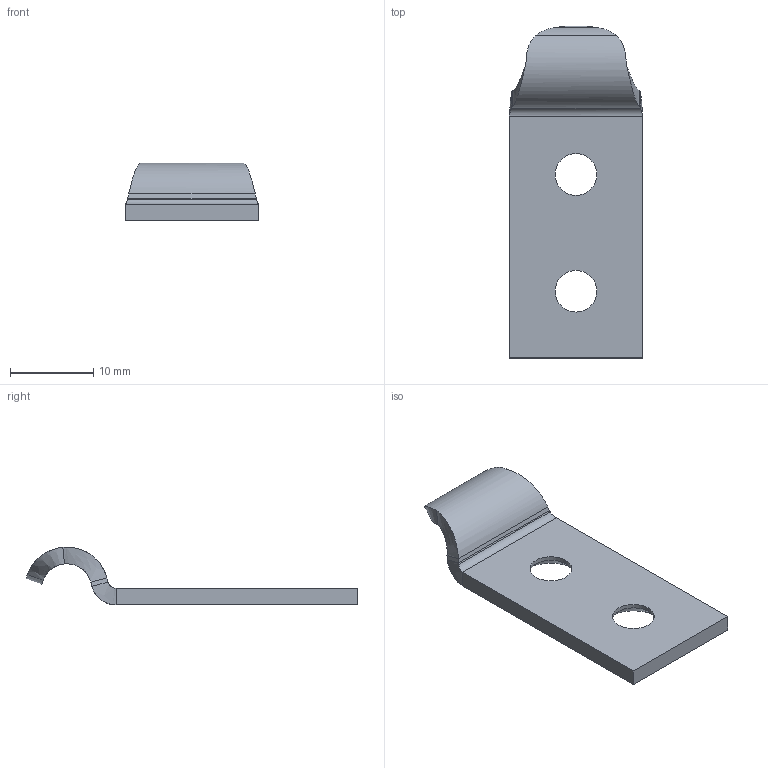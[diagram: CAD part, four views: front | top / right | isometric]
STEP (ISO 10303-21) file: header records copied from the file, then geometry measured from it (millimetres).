
FILE_DESCRIPTION((''),'2;1');
FILE_NAME('3618._.stp','2016-04-20T16:44:57',(''),(''),'Mechanical Desktop 2006','Mechanical Desktop 2006',', , ');
FILE_SCHEMA(('AUTOMOTIVE_DESIGN { 1 2 10303 214 0 1 1 1 }'));
Length unit declared in the file: millimetre
Products named in the file (2): 3618.04; TEIL1
Assembly tree (1 placements, depth 2):
  3618.04
    TEIL1
Bounding box: 16 x 39.8 x 6.93 mm (x, y, z)
Volume: 1151.6 mm3; surface area: 1453.8 mm2
Topology: 1 solids, 1 shells, 35 faces, 79 edges, 46 vertices
Faces by surface type: cylinder 13, plane 11, bspline 7, cone 4
Entity records: 1288 total; most frequent: CARTESIAN_POINT 446, ORIENTED_EDGE 158, DIRECTION 135, EDGE_CURVE 79, AXIS2_PLACEMENT_3D 46, VERTEX_POINT 46, VECTOR 43, LINE 43
